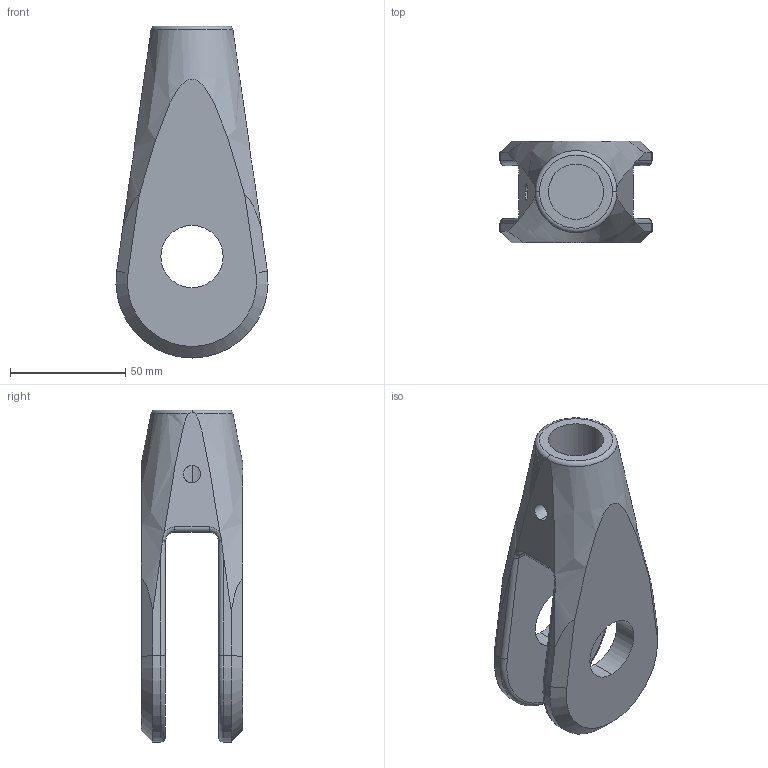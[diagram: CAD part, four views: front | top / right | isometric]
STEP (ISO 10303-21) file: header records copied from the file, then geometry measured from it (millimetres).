
FILE_DESCRIPTION (( 'STEP AP203' ), '1' );
FILE_NAME ('Gabelkopf M24.STEP', '2018-02-20T06:36:33', ( 'install' ), ( 'Hewlett-Packard Company' ), 'SwSTEP 2.0', 'SolidWorks 2017', '' );
FILE_SCHEMA (( 'CONFIG_CONTROL_DESIGN' ));
Length unit declared in the file: millimetre
Products named in the file (1): Gabelkopf M24
Bounding box: 65.97 x 44 x 144 mm (x, y, z)
Volume: 148360 mm3; surface area: 35862.9 mm2
Topology: 1 solids, 1 shells, 51 faces, 127 edges, 78 vertices
Faces by surface type: cylinder 20, plane 17, cone 5, torus 5, bspline 4
Entity records: 2079 total; most frequent: CARTESIAN_POINT 843, ORIENTED_EDGE 254, DIRECTION 230, EDGE_CURVE 127, AXIS2_PLACEMENT_3D 93, VERTEX_POINT 78, EDGE_LOOP 57, FACE_OUTER_BOUND 51
